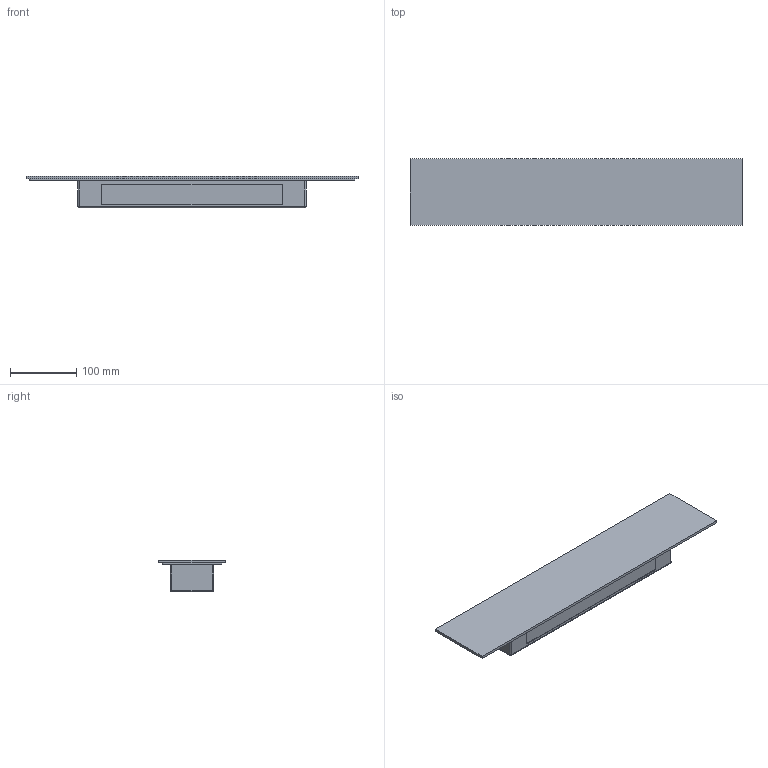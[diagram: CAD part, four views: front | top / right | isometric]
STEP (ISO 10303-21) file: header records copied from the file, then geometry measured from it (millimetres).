
FILE_DESCRIPTION(/* description */ (''),/* implementation_level */ '2;1');
FILE_NAME(/* name */ 'C:\Users\Giulia\Desktop\1711 - SHADE.stp',/* time_stamp */ '2015-04-23T16:44:56+02:00',/* author */ ('Giulia'),/* organization */ (''),/* preprocessor_version */ 'ST-DEVELOPER v15.6',/* originating_system */ 'Autodesk Inventor 2015',/* authorisation */ '');
FILE_SCHEMA (('AUTOMOTIVE_DESIGN { 1 0 10303 214 3 1 1 }'));
Length unit declared in the file: millimetre
Products named in the file (1): 1711 - SHADE
Bounding box: 500 x 100 x 48 mm (x, y, z)
Volume: 1230429.3 mm3; surface area: 142133.2 mm2
Topology: 1 solids, 1 shells, 50 faces, 120 edges, 76 vertices
Faces by surface type: plane 26, cylinder 20, sphere 4
Entity records: 1472 total; most frequent: DIRECTION 262, CARTESIAN_POINT 247, ORIENTED_EDGE 240, EDGE_CURVE 120, AXIS2_PLACEMENT_3D 91, LINE 80, VECTOR 80, VERTEX_POINT 76
